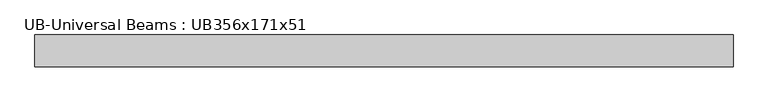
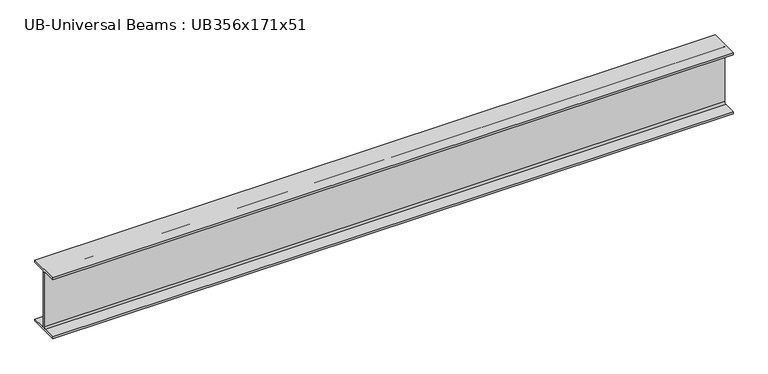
"""IFC4 building model written with IfcOpenShell, lengths in millimetres: beam geometry, UB-Universal Beams : UB356x171x51."""

from ifc_helpers import new_model, si_unit, point, frame, frame_2d, origin, place, context, project, spatial, polyline, circle_curve, trimmed, segment, composite_curve, outline, extrude, source, transform, mapped, element, save


def ub_universal_beams_ub356x171x51_c708c058(model_context):
    return source(origin(), model_context, "Body", "SweptSolid", [
        extrude(outline(composite_curve([segment(polyline([(85.75, -166.0), (85.75, -177.5), (-85.75, -177.5), (-85.75, -166.0), (-13.9, -166.0)]), True, "CONTINUOUS"), segment(trimmed(circle_curve(frame_2d((-13.9, -155.8)), 10.2), [point((-13.9, -166.0))], [point((-3.7, -155.8))], True, "CARTESIAN"), True, "CONTINUOUS"), segment(polyline([(-3.7, -155.8), (-3.7, 155.8)]), True, "CONTINUOUS"), segment(trimmed(circle_curve(frame_2d((-13.9, 155.8)), 10.2), [point((-3.7, 155.8))], [point((-13.9, 166.0))], True, "CARTESIAN"), True, "CONTINUOUS"), segment(polyline([(-13.9, 166.0), (-85.75, 166.0), (-85.75, 177.5), (85.75, 177.5), (85.75, 166.0), (13.9, 166.0)]), True, "CONTINUOUS"), segment(trimmed(circle_curve(frame_2d((13.9, 155.8)), 10.2), [point((13.9, 166.0))], [point((3.7, 155.8))], True, "CARTESIAN"), True, "CONTINUOUS"), segment(polyline([(3.7, 155.8), (3.7, -155.8)]), True, "CONTINUOUS"), segment(trimmed(circle_curve(frame_2d((13.9, -155.8)), 10.2), [point((3.7, -155.8))], [point((13.9, -166.0))], True, "CARTESIAN"), True, "CONTINUOUS"), segment(polyline([(13.9, -166.0), (85.75, -166.0)]), True, "CONTINUOUS")], self_intersect=False)), frame((-1879.1, 0.0, 0.0), z_axis=(1.0, 0.0, 0.0), x_axis=(0.0, 1.0, 0.0)), (0.0, 0.0, 1.0), 3756.9),
    ])


if __name__ == "__main__":
    model = new_model("IFC4")
    model_context = context("Model", 3, world=origin())
    ifc_project = project(units=[si_unit("LENGTHUNIT", "METRE", prefix="MILLI")], contexts=[model_context])
    site = spatial("IfcSite", under=ifc_project)
    building = spatial("IfcBuilding", under=site)
    placement = place(None, origin())
    ub_universal_beams_ub356x171x51_shape = ub_universal_beams_ub356x171x51_c708c058(model_context)
    element("IfcBeam", 1, ObjectType="UB-Universal Beams : UB356x171x51", at=placement, inside=building, context=model_context, shape_type="MappedRepresentation", body=[
        mapped(ub_universal_beams_ub356x171x51_shape, transform((0.0, 0.0, 0.0), x_axis=(1.0, 0.0, 0.0), y_axis=(0.0, 1.0, 0.0), z_axis=(0.0, 0.0, 1.0))),
    ])
    save(model, "model.ifc")
